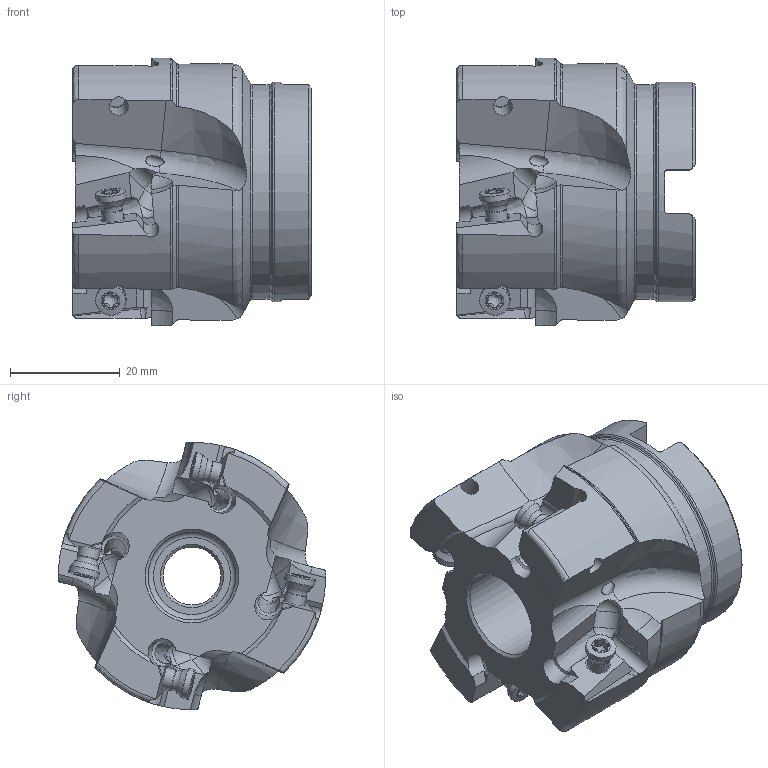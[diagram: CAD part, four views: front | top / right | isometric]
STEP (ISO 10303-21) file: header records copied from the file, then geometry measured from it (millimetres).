
FILE_DESCRIPTION(/* description */ (''),/* implementation_level */ '2;1');
FILE_NAME(/* name */ 'emp13-2.00''''-a0.75''''-an15-04c.stp',/* time_stamp */ '2020-03-23T10:42:08+08:00',/* author */ (''),/* organization */ (''),/* preprocessor_version */ 'ST-DEVELOPER v11',/* originating_system */ 'UGS - NX 5.0',/* authorisation */ '');
FILE_SCHEMA (('AUTOMOTIVE_DESIGN { 1 0 10303 214 1 1 1 1 }'));
Length unit declared in the file: millimetre
Products named in the file (1): zhan124Emggs
Bounding box: 43.45 x 48.6 x 48.6 mm (x, y, z)
Volume: 43445.9 mm3; surface area: 13968 mm2
Topology: 5 solids, 5 shells, 360 faces, 977 edges, 614 vertices
Faces by surface type: plane 131, cylinder 130, cone 46, torus 33, sphere 12, bspline 4, extrusion 4
Full cylindrical faces by diameter (mm): 2 x4, 3.432 x4, 3.7 x4, 3.838 x4, 5.5 x4, 10.5 x1, 16 x1, 19.05 x1, 21.05 x1, 39 x1, 40 x1
Entity records: 12822 total; most frequent: CARTESIAN_POINT 4202, DIRECTION 1850, ORIENTED_EDGE 1748, EDGE_CURVE 874, AXIS2_PLACEMENT_3D 827, VERTEX_POINT 586, EDGE_LOOP 436, CIRCLE 378
